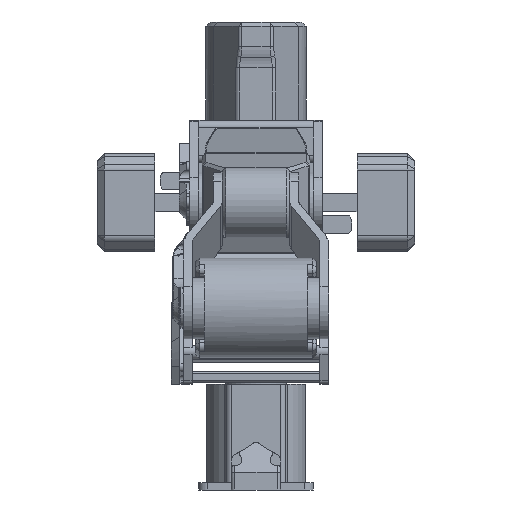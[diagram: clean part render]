
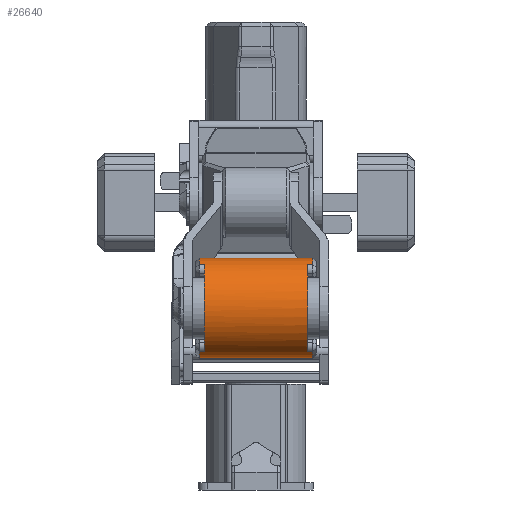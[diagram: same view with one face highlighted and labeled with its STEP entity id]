
A CAD part, left-side view. The second image highlights one B-rep face of the part: STEP entity #26640.
In plain terms, the highlighted cylindrical face has radius 28.5 mm (diameter 57 mm), a partial arc.
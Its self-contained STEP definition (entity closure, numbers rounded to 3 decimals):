
#1392=CIRCLE('',#28601,28.5);
#1393=CIRCLE('',#28602,28.5);
#1394=CIRCLE('',#28603,28.5);
#1395=CIRCLE('',#28604,28.5);
#1396=CIRCLE('',#28605,28.5);
#1397=CIRCLE('',#28606,28.5);
#2838=CYLINDRICAL_SURFACE('',#28600,28.5);
#3531=FACE_OUTER_BOUND('',#5214,.T.);
#5214=EDGE_LOOP('',(#18358,#18359,#18360,#18361,#18362,#18363,#18364,#18365,
#18366,#18367,#18368,#18369));
#7059=LINE('',#39806,#9098);
#7060=LINE('',#39810,#9099);
#7061=LINE('',#39814,#9100);
#7062=LINE('',#39818,#9101);
#7063=LINE('',#39822,#9102);
#7064=LINE('',#39825,#9103);
#9098=VECTOR('',#32023,1000.);
#9099=VECTOR('',#32026,1000.);
#9100=VECTOR('',#32029,1000.);
#9101=VECTOR('',#32032,1000.);
#9102=VECTOR('',#32035,1000.);
#9103=VECTOR('',#32038,1000.);
#11148=VERTEX_POINT('',#39802);
#11149=VERTEX_POINT('',#39803);
#11150=VERTEX_POINT('',#39805);
#11151=VERTEX_POINT('',#39807);
#11152=VERTEX_POINT('',#39809);
#11153=VERTEX_POINT('',#39811);
#11154=VERTEX_POINT('',#39813);
#11155=VERTEX_POINT('',#39815);
#11156=VERTEX_POINT('',#39817);
#11157=VERTEX_POINT('',#39819);
#11158=VERTEX_POINT('',#39821);
#11159=VERTEX_POINT('',#39823);
#13828=EDGE_CURVE('',#11148,#11149,#1392,.T.);
#13829=EDGE_CURVE('',#11149,#11150,#7059,.T.);
#13830=EDGE_CURVE('',#11150,#11151,#1393,.T.);
#13831=EDGE_CURVE('',#11152,#11151,#7060,.T.);
#13832=EDGE_CURVE('',#11152,#11153,#1394,.T.);
#13833=EDGE_CURVE('',#11153,#11154,#7061,.T.);
#13834=EDGE_CURVE('',#11154,#11155,#1395,.T.);
#13835=EDGE_CURVE('',#11156,#11155,#7062,.T.);
#13836=EDGE_CURVE('',#11156,#11157,#1396,.T.);
#13837=EDGE_CURVE('',#11158,#11157,#7063,.T.);
#13838=EDGE_CURVE('',#11159,#11158,#1397,.T.);
#13839=EDGE_CURVE('',#11159,#11148,#7064,.T.);
#18358=ORIENTED_EDGE('',*,*,#13828,.T.);
#18359=ORIENTED_EDGE('',*,*,#13829,.T.);
#18360=ORIENTED_EDGE('',*,*,#13830,.T.);
#18361=ORIENTED_EDGE('',*,*,#13831,.F.);
#18362=ORIENTED_EDGE('',*,*,#13832,.T.);
#18363=ORIENTED_EDGE('',*,*,#13833,.T.);
#18364=ORIENTED_EDGE('',*,*,#13834,.T.);
#18365=ORIENTED_EDGE('',*,*,#13835,.F.);
#18366=ORIENTED_EDGE('',*,*,#13836,.T.);
#18367=ORIENTED_EDGE('',*,*,#13837,.F.);
#18368=ORIENTED_EDGE('',*,*,#13838,.F.);
#18369=ORIENTED_EDGE('',*,*,#13839,.T.);
#26640=ADVANCED_FACE('',(#3531),#2838,.T.);
#28600=AXIS2_PLACEMENT_3D('',#39801,#32019,#32020);
#28601=AXIS2_PLACEMENT_3D('',#39804,#32021,#32022);
#28602=AXIS2_PLACEMENT_3D('',#39808,#32024,#32025);
#28603=AXIS2_PLACEMENT_3D('',#39812,#32027,#32028);
#28604=AXIS2_PLACEMENT_3D('',#39816,#32030,#32031);
#28605=AXIS2_PLACEMENT_3D('',#39820,#32033,#32034);
#28606=AXIS2_PLACEMENT_3D('',#39824,#32036,#32037);
#32019=DIRECTION('center_axis',(0.,1.,0.));
#32020=DIRECTION('ref_axis',(-1.,0.,0.));
#32021=DIRECTION('center_axis',(0.,1.,0.));
#32022=DIRECTION('ref_axis',(0.,0.,-1.));
#32023=DIRECTION('',(0.,1.,0.));
#32024=DIRECTION('center_axis',(0.,-1.,0.));
#32025=DIRECTION('ref_axis',(0.,0.,1.));
#32026=DIRECTION('',(0.,1.,0.));
#32027=DIRECTION('center_axis',(0.,-1.,0.));
#32028=DIRECTION('ref_axis',(0.,0.,1.));
#32029=DIRECTION('',(0.,1.,0.));
#32030=DIRECTION('center_axis',(0.,-1.,0.));
#32031=DIRECTION('ref_axis',(0.,0.,1.));
#32032=DIRECTION('',(0.,1.,0.));
#32033=DIRECTION('center_axis',(0.,1.,0.));
#32034=DIRECTION('ref_axis',(0.,0.,-1.));
#32035=DIRECTION('',(0.,-1.,0.));
#32036=DIRECTION('center_axis',(0.,-1.,0.));
#32037=DIRECTION('ref_axis',(0.,0.,1.));
#32038=DIRECTION('',(0.,-1.,0.));
#39801=CARTESIAN_POINT('Origin',(-264.,-50.,0.));
#39802=CARTESIAN_POINT('',(-278.25,-32.325,24.682));
#39803=CARTESIAN_POINT('',(-259.051,-32.325,28.067));
#39804=CARTESIAN_POINT('Origin',(-264.,-32.325,0.));
#39805=CARTESIAN_POINT('',(-259.051,32.325,28.067));
#39806=CARTESIAN_POINT('',(-259.051,-50.,28.067));
#39807=CARTESIAN_POINT('',(-278.25,32.325,24.682));
#39808=CARTESIAN_POINT('Origin',(-264.,32.325,0.));
#39809=CARTESIAN_POINT('',(-278.25,29.325,24.682));
#39810=CARTESIAN_POINT('',(-278.25,29.325,24.682));
#39811=CARTESIAN_POINT('',(-278.25,29.325,-24.682));
#39812=CARTESIAN_POINT('Origin',(-264.,29.325,0.));
#39813=CARTESIAN_POINT('',(-278.25,32.325,-24.682));
#39814=CARTESIAN_POINT('',(-278.25,29.325,-24.682));
#39815=CARTESIAN_POINT('',(-259.051,32.325,-28.067));
#39816=CARTESIAN_POINT('Origin',(-264.,32.325,0.));
#39817=CARTESIAN_POINT('',(-259.051,-32.325,-28.067));
#39818=CARTESIAN_POINT('',(-259.051,-50.,-28.067));
#39819=CARTESIAN_POINT('',(-278.25,-32.325,-24.682));
#39820=CARTESIAN_POINT('Origin',(-264.,-32.325,0.));
#39821=CARTESIAN_POINT('',(-278.25,-29.325,-24.682));
#39822=CARTESIAN_POINT('',(-278.25,-29.325,-24.682));
#39823=CARTESIAN_POINT('',(-278.25,-29.325,24.682));
#39824=CARTESIAN_POINT('Origin',(-264.,-29.325,0.));
#39825=CARTESIAN_POINT('',(-278.25,-29.325,24.682));
